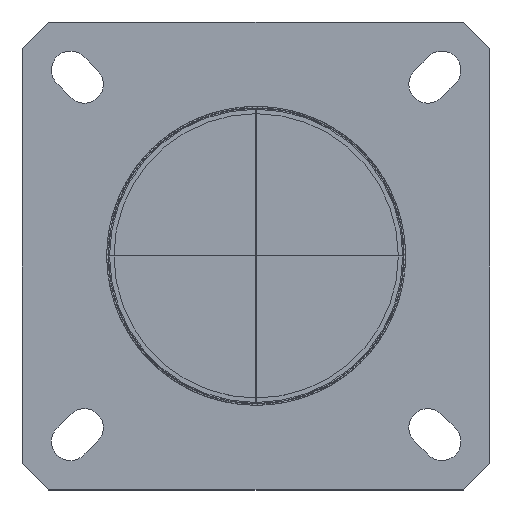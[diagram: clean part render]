
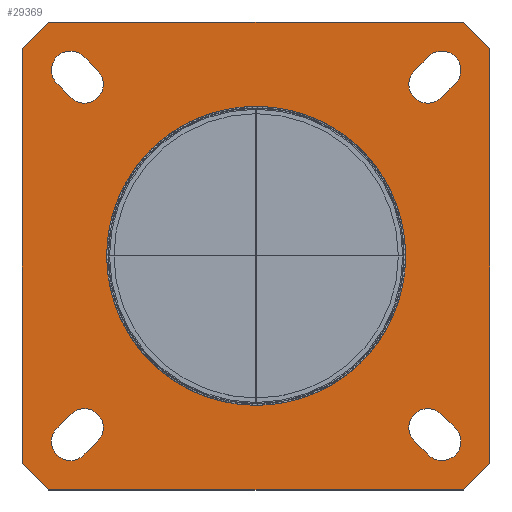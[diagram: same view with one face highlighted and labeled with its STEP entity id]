
A CAD part, top view. The second image highlights one B-rep face of the part: STEP entity #29369.
In plain terms, the highlighted planar face has unit normal (0, 0, 1).
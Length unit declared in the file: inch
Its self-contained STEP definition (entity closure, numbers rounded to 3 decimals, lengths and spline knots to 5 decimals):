
#9814=CARTESIAN_POINT('',(0.,0.,0.));
#9815=DIRECTION('',(0.,0.,1.));
#9816=DIRECTION('',(1.,0.,0.));
#9817=AXIS2_PLACEMENT_3D('',#9814,#9815,#9816);
#12888=DIRECTION('',(0.707,0.707,0.));
#12889=VECTOR('',#12888,0.128);
#12890=CARTESIAN_POINT('',(-0.788,0.69649,0.));
#12891=LINE('',#12890,#12889);
#12892=DIRECTION('',(1.,0.,0.));
#12893=VECTOR('',#12892,1.39398);
#12894=CARTESIAN_POINT('',(-0.69749,0.787,0.));
#12895=LINE('',#12894,#12893);
#12896=DIRECTION('',(0.707,-0.707,0.));
#12897=VECTOR('',#12896,0.128);
#12898=CARTESIAN_POINT('',(0.69649,0.787,0.));
#12899=LINE('',#12898,#12897);
#12900=DIRECTION('',(0.,-1.,0.));
#12901=VECTOR('',#12900,1.39398);
#12902=CARTESIAN_POINT('',(0.787,0.69649,0.));
#12903=LINE('',#12902,#12901);
#12904=DIRECTION('',(-0.707,-0.707,0.));
#12905=VECTOR('',#12904,0.128);
#12906=CARTESIAN_POINT('',(0.787,-0.69749,0.));
#12907=LINE('',#12906,#12905);
#12908=DIRECTION('',(-1.,0.,0.));
#12909=VECTOR('',#12908,1.39398);
#12910=CARTESIAN_POINT('',(0.69649,-0.788,0.));
#12911=LINE('',#12910,#12909);
#12912=DIRECTION('',(-0.707,0.707,0.));
#12913=VECTOR('',#12912,0.128);
#12914=CARTESIAN_POINT('',(-0.69749,-0.788,0.));
#12915=LINE('',#12914,#12913);
#12916=DIRECTION('',(0.,1.,0.));
#12917=VECTOR('',#12916,1.39398);
#12918=CARTESIAN_POINT('',(-0.788,-0.69749,0.));
#12919=LINE('',#12918,#12917);
#12920=DIRECTION('',(-0.707,-0.707,0.));
#12921=VECTOR('',#12920,0.06647);
#12922=CARTESIAN_POINT('',(-0.62325,-0.53275,0.));
#12923=LINE('',#12922,#12921);
#12924=CARTESIAN_POINT('',(-0.625,-0.625,0.));
#12925=DIRECTION('',(0.,0.,1.));
#12926=DIRECTION('',(-0.707,0.707,0.));
#12927=AXIS2_PLACEMENT_3D('',#12924,#12925,#12926);
#12929=DIRECTION('',(0.707,0.707,0.));
#12930=VECTOR('',#12929,0.06647);
#12931=CARTESIAN_POINT('',(-0.57975,-0.67025,0.));
#12932=LINE('',#12931,#12930);
#12933=CARTESIAN_POINT('',(-0.578,-0.578,0.));
#12934=DIRECTION('',(0.,0.,1.));
#12935=DIRECTION('',(0.707,-0.707,0.));
#12936=AXIS2_PLACEMENT_3D('',#12933,#12934,#12935);
#12938=DIRECTION('',(0.707,-0.707,0.));
#12939=VECTOR('',#12938,0.06647);
#12940=CARTESIAN_POINT('',(-0.67025,0.57975,0.));
#12941=LINE('',#12940,#12939);
#12942=CARTESIAN_POINT('',(-0.578,0.578,0.));
#12943=DIRECTION('',(0.,0.,1.));
#12944=DIRECTION('',(-0.707,-0.707,0.));
#12945=AXIS2_PLACEMENT_3D('',#12942,#12943,#12944);
#12947=DIRECTION('',(-0.707,0.707,0.));
#12948=VECTOR('',#12947,0.06647);
#12949=CARTESIAN_POINT('',(-0.53275,0.62325,0.));
#12950=LINE('',#12949,#12948);
#12951=CARTESIAN_POINT('',(-0.625,0.625,0.));
#12952=DIRECTION('',(0.,0.,1.));
#12953=DIRECTION('',(0.707,0.707,0.));
#12954=AXIS2_PLACEMENT_3D('',#12951,#12952,#12953);
#12956=DIRECTION('',(-0.707,-0.707,0.));
#12957=VECTOR('',#12956,0.06647);
#12958=CARTESIAN_POINT('',(0.57975,0.67025,0.));
#12959=LINE('',#12958,#12957);
#12960=CARTESIAN_POINT('',(0.578,0.578,0.));
#12961=DIRECTION('',(0.,0.,1.));
#12962=DIRECTION('',(-0.707,0.707,0.));
#12963=AXIS2_PLACEMENT_3D('',#12960,#12961,#12962);
#12965=DIRECTION('',(0.707,0.707,0.));
#12966=VECTOR('',#12965,0.06647);
#12967=CARTESIAN_POINT('',(0.62325,0.53275,0.));
#12968=LINE('',#12967,#12966);
#12969=CARTESIAN_POINT('',(0.625,0.625,0.));
#12970=DIRECTION('',(0.,0.,1.));
#12971=DIRECTION('',(0.707,-0.707,0.));
#12972=AXIS2_PLACEMENT_3D('',#12969,#12970,#12971);
#12974=CARTESIAN_POINT('',(0.578,-0.578,0.));
#12975=DIRECTION('',(0.,0.,1.));
#12976=DIRECTION('',(0.707,0.707,0.));
#12977=AXIS2_PLACEMENT_3D('',#12974,#12975,#12976);
#12979=DIRECTION('',(0.707,-0.707,0.));
#12980=VECTOR('',#12979,0.06647);
#12981=CARTESIAN_POINT('',(0.53275,-0.62325,0.));
#12982=LINE('',#12981,#12980);
#12983=CARTESIAN_POINT('',(0.625,-0.625,0.));
#12984=DIRECTION('',(0.,0.,1.));
#12985=DIRECTION('',(-0.707,-0.707,0.));
#12986=AXIS2_PLACEMENT_3D('',#12983,#12984,#12985);
#12988=DIRECTION('',(-0.707,0.707,0.));
#12989=VECTOR('',#12988,0.06647);
#12990=CARTESIAN_POINT('',(0.67025,-0.57975,0.));
#12991=LINE('',#12990,#12989);
#13192=CARTESIAN_POINT('',(0.,0.,0.));
#13193=DIRECTION('',(0.,0.,1.));
#13194=DIRECTION('',(-1.,0.,0.));
#13195=AXIS2_PLACEMENT_3D('',#13192,#13193,#13194);
#22529=CARTESIAN_POINT('',(-0.788,0.69649,0.));
#22530=CARTESIAN_POINT('',(-0.69749,0.787,0.));
#22531=VERTEX_POINT('',#22529);
#22532=VERTEX_POINT('',#22530);
#22533=CARTESIAN_POINT('',(0.69649,0.787,0.));
#22534=VERTEX_POINT('',#22533);
#22535=CARTESIAN_POINT('',(0.787,0.69649,0.));
#22536=VERTEX_POINT('',#22535);
#22537=CARTESIAN_POINT('',(0.787,-0.69749,0.));
#22538=VERTEX_POINT('',#22537);
#22539=CARTESIAN_POINT('',(0.69649,-0.788,0.));
#22540=VERTEX_POINT('',#22539);
#22541=CARTESIAN_POINT('',(-0.69749,-0.788,0.));
#22542=VERTEX_POINT('',#22541);
#22543=CARTESIAN_POINT('',(-0.788,-0.69749,0.));
#22544=VERTEX_POINT('',#22543);
#22545=CARTESIAN_POINT('',(-0.62325,-0.53275,0.));
#22546=CARTESIAN_POINT('',(-0.67025,-0.57975,0.));
#22547=VERTEX_POINT('',#22545);
#22548=VERTEX_POINT('',#22546);
#22549=CARTESIAN_POINT('',(-0.57975,-0.67025,0.));
#22550=VERTEX_POINT('',#22549);
#22551=CARTESIAN_POINT('',(-0.53275,-0.62325,0.));
#22552=VERTEX_POINT('',#22551);
#22553=CARTESIAN_POINT('',(-0.67025,0.57975,0.));
#22554=CARTESIAN_POINT('',(-0.62325,0.53275,0.));
#22555=VERTEX_POINT('',#22553);
#22556=VERTEX_POINT('',#22554);
#22557=CARTESIAN_POINT('',(-0.53275,0.62325,0.));
#22558=VERTEX_POINT('',#22557);
#22559=CARTESIAN_POINT('',(-0.57975,0.67025,0.));
#22560=VERTEX_POINT('',#22559);
#22561=CARTESIAN_POINT('',(0.57975,0.67025,0.));
#22562=CARTESIAN_POINT('',(0.53275,0.62325,0.));
#22563=VERTEX_POINT('',#22561);
#22564=VERTEX_POINT('',#22562);
#22565=CARTESIAN_POINT('',(0.62325,0.53275,0.));
#22566=VERTEX_POINT('',#22565);
#22567=CARTESIAN_POINT('',(0.67025,0.57975,0.));
#22568=VERTEX_POINT('',#22567);
#22569=CARTESIAN_POINT('',(0.62325,-0.53275,0.));
#22570=CARTESIAN_POINT('',(0.53275,-0.62325,0.));
#22571=VERTEX_POINT('',#22569);
#22572=VERTEX_POINT('',#22570);
#22573=CARTESIAN_POINT('',(0.57975,-0.67025,0.));
#22574=VERTEX_POINT('',#22573);
#22575=CARTESIAN_POINT('',(0.67025,-0.57975,0.));
#22576=VERTEX_POINT('',#22575);
#22625=CARTESIAN_POINT('',(0.5025,0.,0.));
#22626=CARTESIAN_POINT('',(-0.5025,0.,0.));
#22627=VERTEX_POINT('',#22625);
#22628=VERTEX_POINT('',#22626);
#29301=CARTESIAN_POINT('',(0.,0.,0.));
#29302=DIRECTION('',(0.,0.,-1.));
#29303=DIRECTION('',(0.,-1.,0.));
#29304=AXIS2_PLACEMENT_3D('',#29301,#29302,#29303);
#29305=PLANE('',#29304);
#29307=ORIENTED_EDGE('',*,*,#29306,.T.);
#29309=ORIENTED_EDGE('',*,*,#29308,.T.);
#29311=ORIENTED_EDGE('',*,*,#29310,.T.);
#29313=ORIENTED_EDGE('',*,*,#29312,.T.);
#29315=ORIENTED_EDGE('',*,*,#29314,.T.);
#29317=ORIENTED_EDGE('',*,*,#29316,.T.);
#29319=ORIENTED_EDGE('',*,*,#29318,.T.);
#29321=ORIENTED_EDGE('',*,*,#29320,.T.);
#29322=EDGE_LOOP('',(#29307,#29309,#29311,#29313,#29315,#29317,#29319,#29321));
#29323=FACE_OUTER_BOUND('',#29322,.F.);
#29325=ORIENTED_EDGE('',*,*,#29324,.T.);
#29327=ORIENTED_EDGE('',*,*,#29326,.T.);
#29329=ORIENTED_EDGE('',*,*,#29328,.T.);
#29331=ORIENTED_EDGE('',*,*,#29330,.T.);
#29332=EDGE_LOOP('',(#29325,#29327,#29329,#29331));
#29333=FACE_BOUND('',#29332,.F.);
#29335=ORIENTED_EDGE('',*,*,#29334,.T.);
#29337=ORIENTED_EDGE('',*,*,#29336,.T.);
#29339=ORIENTED_EDGE('',*,*,#29338,.T.);
#29341=ORIENTED_EDGE('',*,*,#29340,.T.);
#29342=EDGE_LOOP('',(#29335,#29337,#29339,#29341));
#29343=FACE_BOUND('',#29342,.F.);
#29345=ORIENTED_EDGE('',*,*,#29344,.T.);
#29347=ORIENTED_EDGE('',*,*,#29346,.T.);
#29349=ORIENTED_EDGE('',*,*,#29348,.T.);
#29351=ORIENTED_EDGE('',*,*,#29350,.T.);
#29352=EDGE_LOOP('',(#29345,#29347,#29349,#29351));
#29353=FACE_BOUND('',#29352,.F.);
#29355=ORIENTED_EDGE('',*,*,#29354,.T.);
#29357=ORIENTED_EDGE('',*,*,#29356,.T.);
#29359=ORIENTED_EDGE('',*,*,#29358,.T.);
#29361=ORIENTED_EDGE('',*,*,#29360,.T.);
#29362=EDGE_LOOP('',(#29355,#29357,#29359,#29361));
#29363=FACE_BOUND('',#29362,.F.);
#29364=ORIENTED_EDGE('',*,*,#28304,.T.);
#29366=ORIENTED_EDGE('',*,*,#29365,.T.);
#29367=EDGE_LOOP('',(#29364,#29366));
#29368=FACE_BOUND('',#29367,.F.);
#29369=ADVANCED_FACE('',(#29323,#29333,#29343,#29353,#29363,#29368),#29305,.F.);
#9818=CIRCLE('',#9817,0.5025);
#12928=CIRCLE('',#12927,0.064);
#12937=CIRCLE('',#12936,0.064);
#12946=CIRCLE('',#12945,0.064);
#12955=CIRCLE('',#12954,0.064);
#12964=CIRCLE('',#12963,0.064);
#12973=CIRCLE('',#12972,0.064);
#12978=CIRCLE('',#12977,0.064);
#12987=CIRCLE('',#12986,0.064);
#13196=CIRCLE('',#13195,0.5025);
#28304=EDGE_CURVE('',#22627,#22628,#9818,.T.);
#29306=EDGE_CURVE('',#22531,#22532,#12891,.T.);
#29308=EDGE_CURVE('',#22532,#22534,#12895,.T.);
#29310=EDGE_CURVE('',#22534,#22536,#12899,.T.);
#29312=EDGE_CURVE('',#22536,#22538,#12903,.T.);
#29314=EDGE_CURVE('',#22538,#22540,#12907,.T.);
#29316=EDGE_CURVE('',#22540,#22542,#12911,.T.);
#29318=EDGE_CURVE('',#22542,#22544,#12915,.T.);
#29320=EDGE_CURVE('',#22544,#22531,#12919,.T.);
#29324=EDGE_CURVE('',#22547,#22548,#12923,.T.);
#29326=EDGE_CURVE('',#22548,#22550,#12928,.T.);
#29328=EDGE_CURVE('',#22550,#22552,#12932,.T.);
#29330=EDGE_CURVE('',#22552,#22547,#12937,.T.);
#29334=EDGE_CURVE('',#22555,#22556,#12941,.T.);
#29336=EDGE_CURVE('',#22556,#22558,#12946,.T.);
#29338=EDGE_CURVE('',#22558,#22560,#12950,.T.);
#29340=EDGE_CURVE('',#22560,#22555,#12955,.T.);
#29344=EDGE_CURVE('',#22563,#22564,#12959,.T.);
#29346=EDGE_CURVE('',#22564,#22566,#12964,.T.);
#29348=EDGE_CURVE('',#22566,#22568,#12968,.T.);
#29350=EDGE_CURVE('',#22568,#22563,#12973,.T.);
#29354=EDGE_CURVE('',#22571,#22572,#12978,.T.);
#29356=EDGE_CURVE('',#22572,#22574,#12982,.T.);
#29358=EDGE_CURVE('',#22574,#22576,#12987,.T.);
#29360=EDGE_CURVE('',#22576,#22571,#12991,.T.);
#29365=EDGE_CURVE('',#22628,#22627,#13196,.T.);
